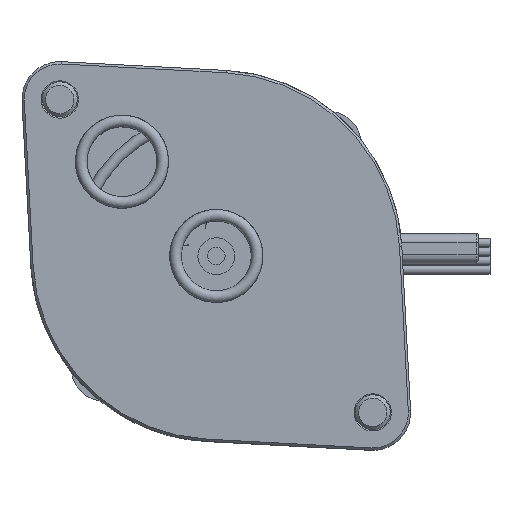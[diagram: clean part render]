
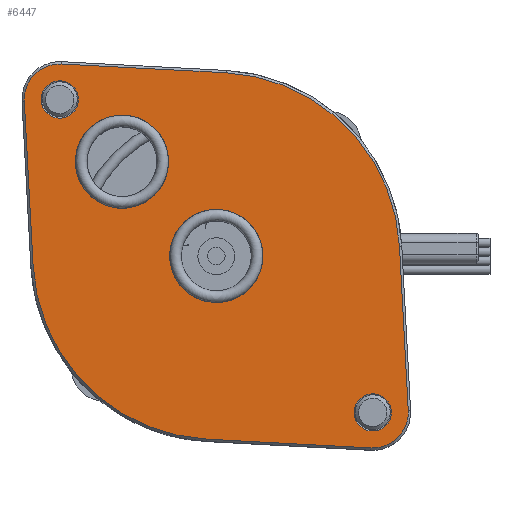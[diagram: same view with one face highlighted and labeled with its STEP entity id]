
A CAD part, top view. The second image highlights one B-rep face of the part: STEP entity #6447.
In plain terms, the highlighted planar face has unit normal (0, 0, 1).
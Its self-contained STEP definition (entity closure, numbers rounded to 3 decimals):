
#55 = PLANE ( 'NONE',  #2564 ) ;
#312 = ORIENTED_EDGE ( 'NONE', *, *, #931, .T. ) ;
#369 = VERTEX_POINT ( 'NONE', #2139 ) ;
#491 = EDGE_CURVE ( 'NONE', #1925, #6199, #4990, .T. ) ;
#578 = CIRCLE ( 'NONE', #4067, 3.05 ) ;
#588 = CARTESIAN_POINT ( 'NONE',  ( -13.435, 13.435, 12.5 ) ) ;
#654 = EDGE_CURVE ( 'NONE', #1398, #1925, #4155, .T. ) ;
#718 = FACE_BOUND ( 'NONE', #3971, .T. ) ;
#721 = CIRCLE ( 'NONE', #2734, 1.6 ) ;
#840 = DIRECTION ( 'NONE',  ( 0., 0., 1. ) ) ;
#846 = LINE ( 'NONE', #6001, #2358 ) ;
#931 = EDGE_CURVE ( 'NONE', #4531, #1460, #4228, .T. ) ;
#963 = VERTEX_POINT ( 'NONE', #2854 ) ;
#988 = EDGE_CURVE ( 'NONE', #6578, #6578, #3962, .T. ) ;
#1088 = CARTESIAN_POINT ( 'NONE',  ( 15.728, 0.839, 12.5 ) ) ;
#1102 = DIRECTION ( 'NONE',  ( -0.707, -0.707, 0. ) ) ;
#1183 = DIRECTION ( 'NONE',  ( 0.707, 0.707, 0. ) ) ;
#1193 = CARTESIAN_POINT ( 'NONE',  ( 0., 0., 12.5 ) ) ;
#1248 = LINE ( 'NONE', #5057, #1639 ) ;
#1276 = CARTESIAN_POINT ( 'NONE',  ( 13.435, -13.435, 12.5 ) ) ;
#1279 = EDGE_CURVE ( 'NONE', #1460, #369, #7715, .T. ) ;
#1287 = ORIENTED_EDGE ( 'NONE', *, *, #3026, .T. ) ;
#1357 = FACE_OUTER_BOUND ( 'NONE', #6264, .T. ) ;
#1398 = VERTEX_POINT ( 'NONE', #4567 ) ;
#1460 = VERTEX_POINT ( 'NONE', #7446 ) ;
#1639 = VECTOR ( 'NONE', #6362, 1000. ) ;
#1795 = CARTESIAN_POINT ( 'NONE',  ( -0.839, -15.728, 12.5 ) ) ;
#1865 = DIRECTION ( 'NONE',  ( 0., 0., -1. ) ) ;
#1925 = VERTEX_POINT ( 'NONE', #5033 ) ;
#1981 = EDGE_CURVE ( 'NONE', #7145, #7145, #3571, .T. ) ;
#1982 = ORIENTED_EDGE ( 'NONE', *, *, #1981, .F. ) ;
#2029 = CARTESIAN_POINT ( 'NONE',  ( 2.828, 2.828, 12.5 ) ) ;
#2125 = ORIENTED_EDGE ( 'NONE', *, *, #988, .T. ) ;
#2139 = CARTESIAN_POINT ( 'NONE',  ( 13.272, -16.481, 12.5 ) ) ;
#2169 = ORIENTED_EDGE ( 'NONE', *, *, #2573, .T. ) ;
#2175 = EDGE_CURVE ( 'NONE', #6199, #4531, #1248, .T. ) ;
#2327 = CARTESIAN_POINT ( 'NONE',  ( -16.481, 13.272, 12.5 ) ) ;
#2358 = VECTOR ( 'NONE', #7190, 1000. ) ;
#2452 = DIRECTION ( 'NONE',  ( 0., 0., 1. ) ) ;
#2564 = AXIS2_PLACEMENT_3D ( 'NONE', #5520, #840, #3411 ) ;
#2573 = EDGE_CURVE ( 'NONE', #3400, #6649, #846, .T. ) ;
#2656 = FACE_BOUND ( 'NONE', #7435, .T. ) ;
#2734 = AXIS2_PLACEMENT_3D ( 'NONE', #6344, #1865, #1102 ) ;
#2742 = CARTESIAN_POINT ( 'NONE',  ( -15.728, -0.839, 12.5 ) ) ;
#2752 = EDGE_LOOP ( 'NONE', ( #2125 ) ) ;
#2802 = ORIENTED_EDGE ( 'NONE', *, *, #2175, .T. ) ;
#2854 = CARTESIAN_POINT ( 'NONE',  ( 12.304, -14.566, 12.5 ) ) ;
#2897 = DIRECTION ( 'NONE',  ( 0., 0., 1. ) ) ;
#2960 = DIRECTION ( 'NONE',  ( 0., 0., 1. ) ) ;
#3026 = EDGE_CURVE ( 'NONE', #6649, #1398, #8149, .T. ) ;
#3057 = CARTESIAN_POINT ( 'NONE',  ( 0., 0., 12.5 ) ) ;
#3312 = DIRECTION ( 'NONE',  ( 0.707, 0.707, 0. ) ) ;
#3400 = VERTEX_POINT ( 'NONE', #7698 ) ;
#3411 = DIRECTION ( 'NONE',  ( 0.707, 0.707, 0. ) ) ;
#3467 = DIRECTION ( 'NONE',  ( 0., 0., 1. ) ) ;
#3485 = CARTESIAN_POINT ( 'NONE',  ( 0., 0., 12.5 ) ) ;
#3526 = DIRECTION ( 'NONE',  ( -0.999, 0.053, 0. ) ) ;
#3571 = CIRCLE ( 'NONE', #5205, 4. ) ;
#3750 = DIRECTION ( 'NONE',  ( 0., 0., 1. ) ) ;
#3757 = DIRECTION ( 'NONE',  ( 0., 0., 1. ) ) ;
#3962 = CIRCLE ( 'NONE', #5447, 1.6 ) ;
#3971 = EDGE_LOOP ( 'NONE', ( #7559 ) ) ;
#4067 = AXIS2_PLACEMENT_3D ( 'NONE', #1276, #2452, #7744 ) ;
#4155 = LINE ( 'NONE', #6063, #4163 ) ;
#4163 = VECTOR ( 'NONE', #3526, 1000. ) ;
#4206 = ORIENTED_EDGE ( 'NONE', *, *, #491, .T. ) ;
#4228 = CIRCLE ( 'NONE', #4498, 15.75 ) ;
#4244 = CARTESIAN_POINT ( 'NONE',  ( -5.268, 10.925, 12.5 ) ) ;
#4498 = AXIS2_PLACEMENT_3D ( 'NONE', #3057, #2897, #8250 ) ;
#4531 = VERTEX_POINT ( 'NONE', #2742 ) ;
#4542 = EDGE_LOOP ( 'NONE', ( #6493 ) ) ;
#4561 = EDGE_CURVE ( 'NONE', #4712, #4712, #4606, .T. ) ;
#4567 = CARTESIAN_POINT ( 'NONE',  ( 0.839, 15.728, 12.5 ) ) ;
#4606 = CIRCLE ( 'NONE', #5552, 4. ) ;
#4668 = EDGE_CURVE ( 'NONE', #369, #3400, #578, .T. ) ;
#4691 = ORIENTED_EDGE ( 'NONE', *, *, #1279, .T. ) ;
#4712 = VERTEX_POINT ( 'NONE', #4244 ) ;
#4990 = CIRCLE ( 'NONE', #5130, 3.05 ) ;
#5033 = CARTESIAN_POINT ( 'NONE',  ( -13.272, 16.481, 12.5 ) ) ;
#5057 = CARTESIAN_POINT ( 'NONE',  ( -15.728, -0.839, 12.5 ) ) ;
#5070 = CARTESIAN_POINT ( 'NONE',  ( -13.435, 13.435, 12.5 ) ) ;
#5130 = AXIS2_PLACEMENT_3D ( 'NONE', #588, #3750, #1183 ) ;
#5188 = DIRECTION ( 'NONE',  ( 0., 0., -1. ) ) ;
#5205 = AXIS2_PLACEMENT_3D ( 'NONE', #1193, #3757, #3312 ) ;
#5314 = EDGE_CURVE ( 'NONE', #963, #963, #721, .T. ) ;
#5318 = CARTESIAN_POINT ( 'NONE',  ( -14.566, 12.304, 12.5 ) ) ;
#5371 = CARTESIAN_POINT ( 'NONE',  ( -8.096, 8.096, 12.5 ) ) ;
#5447 = AXIS2_PLACEMENT_3D ( 'NONE', #5070, #5188, #7643 ) ;
#5520 = CARTESIAN_POINT ( 'NONE',  ( 0., 0., 12.5 ) ) ;
#5552 = AXIS2_PLACEMENT_3D ( 'NONE', #5371, #3467, #7919 ) ;
#5760 = DIRECTION ( 'NONE',  ( 0.999, -0.053, 0. ) ) ;
#5916 = FACE_BOUND ( 'NONE', #2752, .T. ) ;
#6001 = CARTESIAN_POINT ( 'NONE',  ( 15.728, 0.839, 12.5 ) ) ;
#6063 = CARTESIAN_POINT ( 'NONE',  ( 0.839, 15.728, 12.5 ) ) ;
#6199 = VERTEX_POINT ( 'NONE', #2327 ) ;
#6264 = EDGE_LOOP ( 'NONE', ( #2169, #1287, #7500, #4206, #2802, #312, #4691, #6606 ) ) ;
#6344 = CARTESIAN_POINT ( 'NONE',  ( 13.435, -13.435, 12.5 ) ) ;
#6362 = DIRECTION ( 'NONE',  ( 0.053, -0.999, 0. ) ) ;
#6447 = ADVANCED_FACE ( 'NONE', ( #1357, #7058, #2656, #718, #5916 ), #55, .T. ) ;
#6493 = ORIENTED_EDGE ( 'NONE', *, *, #4561, .F. ) ;
#6578 = VERTEX_POINT ( 'NONE', #5318 ) ;
#6606 = ORIENTED_EDGE ( 'NONE', *, *, #4668, .T. ) ;
#6649 = VERTEX_POINT ( 'NONE', #1088 ) ;
#7058 = FACE_BOUND ( 'NONE', #4542, .T. ) ;
#7145 = VERTEX_POINT ( 'NONE', #2029 ) ;
#7190 = DIRECTION ( 'NONE',  ( -0.053, 0.999, 0. ) ) ;
#7435 = EDGE_LOOP ( 'NONE', ( #1982 ) ) ;
#7446 = CARTESIAN_POINT ( 'NONE',  ( -0.839, -15.728, 12.5 ) ) ;
#7500 = ORIENTED_EDGE ( 'NONE', *, *, #654, .T. ) ;
#7559 = ORIENTED_EDGE ( 'NONE', *, *, #5314, .T. ) ;
#7643 = DIRECTION ( 'NONE',  ( -0.707, -0.707, 0. ) ) ;
#7698 = CARTESIAN_POINT ( 'NONE',  ( 16.481, -13.272, 12.5 ) ) ;
#7715 = LINE ( 'NONE', #1795, #7772 ) ;
#7744 = DIRECTION ( 'NONE',  ( 0.707, 0.707, 0. ) ) ;
#7772 = VECTOR ( 'NONE', #5760, 1000. ) ;
#7919 = DIRECTION ( 'NONE',  ( 0.707, 0.707, 0. ) ) ;
#8149 = CIRCLE ( 'NONE', #8291, 15.75 ) ;
#8191 = DIRECTION ( 'NONE',  ( 0.707, 0.707, 0. ) ) ;
#8250 = DIRECTION ( 'NONE',  ( 0.707, 0.707, 0. ) ) ;
#8291 = AXIS2_PLACEMENT_3D ( 'NONE', #3485, #2960, #8191 ) ;
